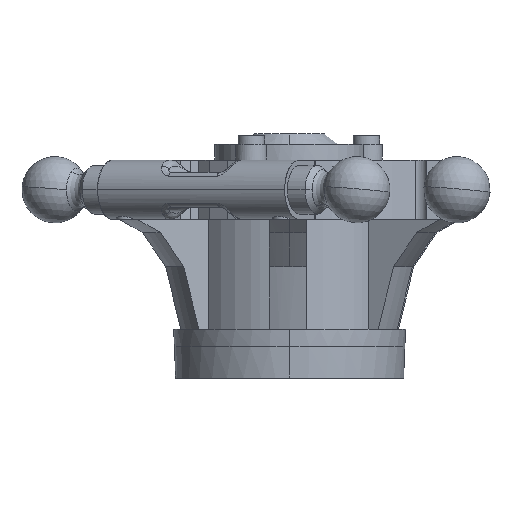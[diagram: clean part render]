
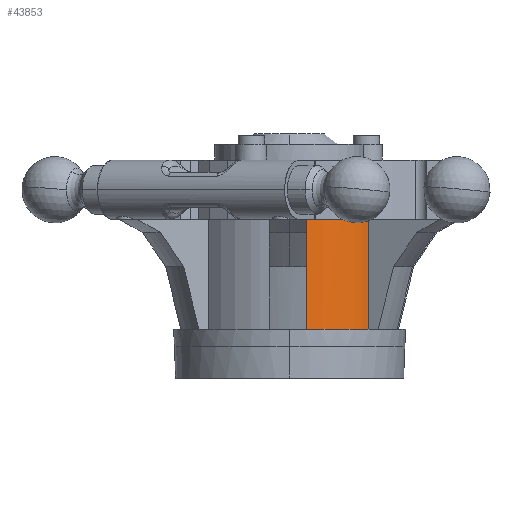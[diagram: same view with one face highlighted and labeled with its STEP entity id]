
A CAD part, front view. The second image highlights one B-rep face of the part: STEP entity #43853.
In plain terms, the highlighted cylindrical face has radius 30 mm (diameter 60 mm), a partial arc.
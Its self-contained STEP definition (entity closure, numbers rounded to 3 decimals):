
#1870 = CARTESIAN_POINT ( 'NONE',  ( 17.51, -24.421, -937.965 ) ) ;
#2286 = LINE ( 'NONE', #17609, #40219 ) ;
#2559 = ORIENTED_EDGE ( 'NONE', *, *, #16808, .T. ) ;
#3842 = CARTESIAN_POINT ( 'NONE',  ( 22.591, -19.74, -906.39 ) ) ;
#4257 = CARTESIAN_POINT ( 'NONE',  ( 9.585, -28.428, -906.39 ) ) ;
#4506 = CARTESIAN_POINT ( 'NONE',  ( 21.457, -21.037, -906.39 ) ) ;
#5057 = CARTESIAN_POINT ( 'NONE',  ( 4.8, -29.614, -906.39 ) ) ;
#5245 = CARTESIAN_POINT ( 'NONE',  ( 9.381, -28.496, -906.39 ) ) ;
#5345 = FACE_OUTER_BOUND ( 'NONE', #18742, .T. ) ;
#5882 = CARTESIAN_POINT ( 'NONE',  ( 20.201, -22.246, -937.965 ) ) ;
#7532 = CARTESIAN_POINT ( 'NONE',  ( 4.8, -29.614, -937.965 ) ) ;
#8723 = VERTEX_POINT ( 'NONE', #7532 ) ;
#9464 = VECTOR ( 'NONE', #42811, 1000. ) ;
#9644 = CARTESIAN_POINT ( 'NONE',  ( 16.07, -25.392, -937.965 ) ) ;
#12030 = CARTESIAN_POINT ( 'NONE',  ( 18.287, -23.784, -906.39 ) ) ;
#12526 = CARTESIAN_POINT ( 'NONE',  ( 17.679, -24.244, -906.39 ) ) ;
#12912 = CARTESIAN_POINT ( 'NONE',  ( 4.8, -29.614, -937.965 ) ) ;
#14360 = EDGE_CURVE ( 'NONE', #34446, #17504, #36945, .T. ) ;
#16168 = DIRECTION ( 'NONE',  ( 0., 0., 1. ) ) ;
#16660 = DIRECTION ( 'NONE',  ( -1., 0., 0. ) ) ;
#16699 = CARTESIAN_POINT ( 'NONE',  ( 6.508, -29.337, -937.965 ) ) ;
#16808 = EDGE_CURVE ( 'NONE', #34446, #8723, #2286, .T. ) ;
#17504 = VERTEX_POINT ( 'NONE', #3842 ) ;
#17609 = CARTESIAN_POINT ( 'NONE',  ( 4.8, -29.614, -949.39 ) ) ;
#18742 = EDGE_LOOP ( 'NONE', ( #38312, #30785, #38122, #2559 ) ) ;
#19456 = VERTEX_POINT ( 'NONE', #21166 ) ;
#19769 = AXIS2_PLACEMENT_3D ( 'NONE', #35500, #16168, #16660 ) ;
#19819 = CARTESIAN_POINT ( 'NONE',  ( 8.357, -28.818, -906.39 ) ) ;
#21166 = CARTESIAN_POINT ( 'NONE',  ( 22.591, -19.74, -937.965 ) ) ;
#23577 = CARTESIAN_POINT ( 'NONE',  ( 20.223, -22.226, -906.39 ) ) ;
#27351 = CARTESIAN_POINT ( 'NONE',  ( 18.545, -23.582, -906.39 ) ) ;
#27601 = CARTESIAN_POINT ( 'NONE',  ( 22.591, -19.74, -906.39 ) ) ;
#27706 = CYLINDRICAL_SURFACE ( 'NONE', #19769, 30. ) ;
#28320 = EDGE_CURVE ( 'NONE', #8723, #19456, #44173, .T. ) ;
#28732 = CARTESIAN_POINT ( 'NONE',  ( 13.045, -27.07, -937.965 ) ) ;
#30587 = EDGE_CURVE ( 'NONE', #19456, #17504, #35281, .T. ) ;
#30785 = ORIENTED_EDGE ( 'NONE', *, *, #30587, .T. ) ;
#31122 = CARTESIAN_POINT ( 'NONE',  ( 6.91, -29.215, -906.39 ) ) ;
#32106 = CARTESIAN_POINT ( 'NONE',  ( 9.685, -28.394, -906.39 ) ) ;
#32258 = CARTESIAN_POINT ( 'NONE',  ( 21.452, -21.043, -937.965 ) ) ;
#32750 = CARTESIAN_POINT ( 'NONE',  ( 8.191, -28.912, -937.965 ) ) ;
#32928 = DIRECTION ( 'NONE',  ( 0., 0., -1. ) ) ;
#34446 = VERTEX_POINT ( 'NONE', #5057 ) ;
#34889 = CARTESIAN_POINT ( 'NONE',  ( 13.031, -27.079, -906.39 ) ) ;
#35281 = LINE ( 'NONE', #42563, #9464 ) ;
#35500 = CARTESIAN_POINT ( 'NONE',  ( 0., 0., -943.39 ) ) ;
#35541 = CARTESIAN_POINT ( 'NONE',  ( 22.591, -19.74, -937.965 ) ) ;
#35640 = CARTESIAN_POINT ( 'NONE',  ( 18.803, -23.377, -906.39 ) ) ;
#36945 = B_SPLINE_CURVE_WITH_KNOTS ( 'NONE', 3,
 ( #47415, #47172, #31122, #19819, #39651, #5245, #4257, #32106, #38917, #34889, #46925, #46432, #12526, #12030, #27351, #42685, #35640, #23577, #4506, #27601 ),
 .UNSPECIFIED., .F., .F.,
 ( 4, 1, 1, 1, 2, 2, 2, 1, 1, 1, 2, 2, 4 ),
 ( 0., 0.125, 0.188, 0.219, 0.234, 0.25, 0.5, 0.625, 0.687, 0.719, 0.734, 0.75, 1. ),
 .UNSPECIFIED. ) ;
#38122 = ORIENTED_EDGE ( 'NONE', *, *, #14360, .F. ) ;
#38312 = ORIENTED_EDGE ( 'NONE', *, *, #28320, .T. ) ;
#38917 = CARTESIAN_POINT ( 'NONE',  ( 11.44, -27.788, -906.39 ) ) ;
#39651 = CARTESIAN_POINT ( 'NONE',  ( 9.075, -28.596, -906.39 ) ) ;
#39792 = CARTESIAN_POINT ( 'NONE',  ( 11.46, -27.779, -937.965 ) ) ;
#40219 = VECTOR ( 'NONE', #32928, 1000. ) ;
#42563 = CARTESIAN_POINT ( 'NONE',  ( 22.591, -19.74, -949.39 ) ) ;
#42685 = CARTESIAN_POINT ( 'NONE',  ( 18.716, -23.446, -906.39 ) ) ;
#42811 = DIRECTION ( 'NONE',  ( 0., 0., 1. ) ) ;
#43853 = ADVANCED_FACE ( 'NONE', ( #5345 ), #27706, .T. ) ;
#44173 = B_SPLINE_CURVE_WITH_KNOTS ( 'NONE', 3,
 ( #12912, #16699, #32750, #39792, #28732, #9644, #1870, #5882, #32258, #35541 ),
 .UNSPECIFIED., .F., .F.,
 ( 4, 2, 2, 2, 4 ),
 ( 0., 0.25, 0.5, 0.75, 1. ),
 .UNSPECIFIED. ) ;
#46432 = CARTESIAN_POINT ( 'NONE',  ( 16.435, -25.124, -906.39 ) ) ;
#46925 = CARTESIAN_POINT ( 'NONE',  ( 15.322, -25.807, -906.39 ) ) ;
#47172 = CARTESIAN_POINT ( 'NONE',  ( 5.65, -29.476, -906.39 ) ) ;
#47415 = CARTESIAN_POINT ( 'NONE',  ( 4.8, -29.614, -906.39 ) ) ;
